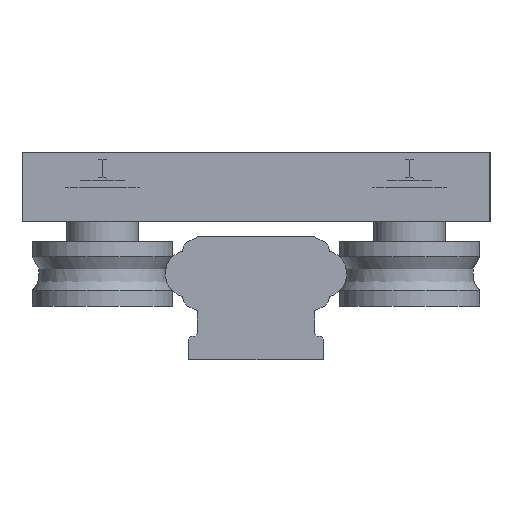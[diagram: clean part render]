
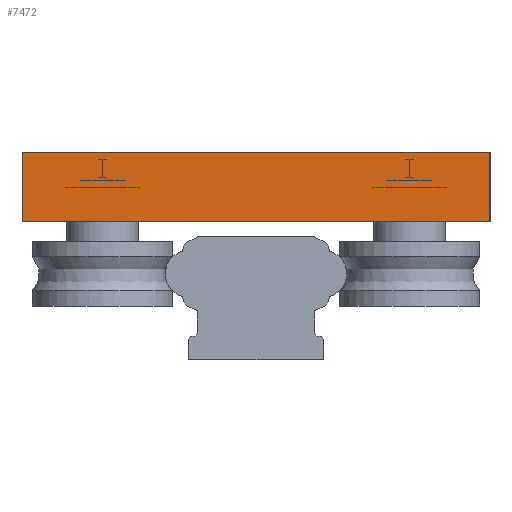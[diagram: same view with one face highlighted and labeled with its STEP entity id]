
A CAD part, left-side view. The second image highlights one B-rep face of the part: STEP entity #7472.
In plain terms, the highlighted planar face has unit normal (-1, 0, 0).
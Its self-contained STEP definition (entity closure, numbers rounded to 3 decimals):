
#7304=CARTESIAN_POINT('',(0.0,-40.0,20.8));
#7305=VERTEX_POINT('',#7304);
#7312=CARTESIAN_POINT('',(0.0,-40.0,9.));
#7313=VERTEX_POINT('',#7312);
#7314=CARTESIAN_POINT('',(0.0,-40.0,20.8));
#7315=DIRECTION('',(0.0,0.0,-1.0));
#7316=VECTOR('',#7315,11.8);
#7317=LINE('',#7314,#7316);
#7318=EDGE_CURVE('',#7305,#7313,#7317,.T.);
#7342=CARTESIAN_POINT('',(0.0,40.0,20.8));
#7343=VERTEX_POINT('',#7342);
#7350=CARTESIAN_POINT('',(0.0,40.0,20.8));
#7351=DIRECTION('',(0.0,-1.0,0.0));
#7352=VECTOR('',#7351,80.0);
#7353=LINE('',#7350,#7352);
#7354=EDGE_CURVE('',#7343,#7305,#7353,.T.);
#7397=CARTESIAN_POINT('',(0.0,40.0,9.));
#7398=VERTEX_POINT('',#7397);
#7405=CARTESIAN_POINT('',(0.0,40.0,9.));
#7406=DIRECTION('',(0.0,0.0,1.0));
#7407=VECTOR('',#7406,11.8);
#7408=LINE('',#7405,#7407);
#7409=EDGE_CURVE('',#7398,#7343,#7408,.T.);
#7427=CARTESIAN_POINT('',(0.0,-40.0,9.));
#7428=DIRECTION('',(0.0,1.0,0.0));
#7429=VECTOR('',#7428,80.0);
#7430=LINE('',#7427,#7429);
#7431=EDGE_CURVE('',#7313,#7398,#7430,.T.);
#7461=CARTESIAN_POINT('',(0.0,0.0,14.9));
#7462=DIRECTION('',(1.0,0.0,0.0));
#7463=DIRECTION('',(0.0,0.0,-1.0));
#7464=AXIS2_PLACEMENT_3D('',#7461,#7462,#7463);
#7465=PLANE('',#7464);
#7466=ORIENTED_EDGE('',*,*,#7431,.F.);
#7467=ORIENTED_EDGE('',*,*,#7318,.F.);
#7468=ORIENTED_EDGE('',*,*,#7354,.F.);
#7469=ORIENTED_EDGE('',*,*,#7409,.F.);
#7470=EDGE_LOOP('',(#7466,#7467,#7468,#7469));
#7471=FACE_OUTER_BOUND('',#7470,.T.);
#7472=ADVANCED_FACE('',(#7471),#7465,.F.);
